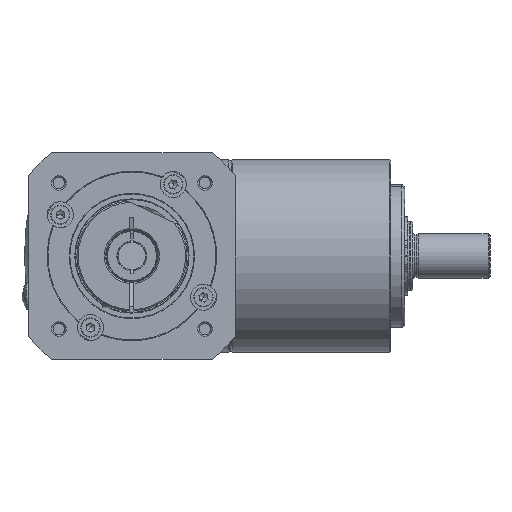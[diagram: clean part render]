
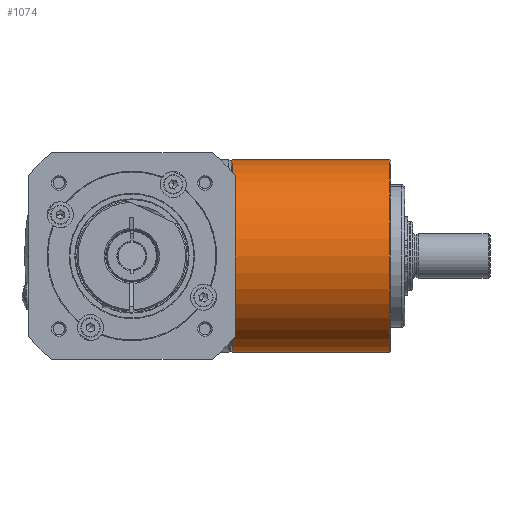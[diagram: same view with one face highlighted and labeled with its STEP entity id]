
A CAD part, front view. The second image highlights one B-rep face of the part: STEP entity #1074.
In plain terms, the highlighted cylindrical face has radius 35 mm (diameter 70 mm), a partial arc.
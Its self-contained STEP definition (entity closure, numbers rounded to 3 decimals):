
#1074 = ADVANCED_FACE ( 'NONE', ( #35308 ), #24565, .T. ) ;
#2248 = DIRECTION ( 'NONE',  ( 0., 0., -1. ) ) ;
#2878 = AXIS2_PLACEMENT_3D ( 'NONE', #20590, #27834, #2248 ) ;
#5453 = AXIS2_PLACEMENT_3D ( 'NONE', #33456, #11647, #9044 ) ;
#5550 = ORIENTED_EDGE ( 'NONE', *, *, #46148, .T. ) ;
#5832 = EDGE_CURVE ( 'NONE', #22723, #25010, #41309, .T. ) ;
#6868 = AXIS2_PLACEMENT_3D ( 'NONE', #35953, #17956, #24730 ) ;
#8540 = ORIENTED_EDGE ( 'NONE', *, *, #44140, .F. ) ;
#9044 = DIRECTION ( 'NONE',  ( 0., 0., -1. ) ) ;
#9501 = LINE ( 'NONE', #24526, #19341 ) ;
#10461 = LINE ( 'NONE', #24780, #14022 ) ;
#11647 = DIRECTION ( 'NONE',  ( 1., 0., 0. ) ) ;
#14022 = VECTOR ( 'NONE', #32276, 1000. ) ;
#16032 = ORIENTED_EDGE ( 'NONE', *, *, #5832, .T. ) ;
#17956 = DIRECTION ( 'NONE',  ( -1., 0., 0. ) ) ;
#19341 = VECTOR ( 'NONE', #42562, 1000. ) ;
#19544 = ORIENTED_EDGE ( 'NONE', *, *, #24662, .T. ) ;
#19560 = CARTESIAN_POINT ( 'NONE',  ( 36.5, 0., 35. ) ) ;
#20590 = CARTESIAN_POINT ( 'NONE',  ( 88.368, 0., 0. ) ) ;
#22723 = VERTEX_POINT ( 'NONE', #34141 ) ;
#24526 = CARTESIAN_POINT ( 'NONE',  ( 88.368, 0., -35. ) ) ;
#24565 = CYLINDRICAL_SURFACE ( 'NONE', #2878, 35. ) ;
#24662 = EDGE_CURVE ( 'NONE', #25912, #38442, #25713, .T. ) ;
#24730 = DIRECTION ( 'NONE',  ( 0., 0., 1. ) ) ;
#24780 = CARTESIAN_POINT ( 'NONE',  ( 88.368, 0., 35. ) ) ;
#25010 = VERTEX_POINT ( 'NONE', #28403 ) ;
#25713 = CIRCLE ( 'NONE', #5453, 35. ) ;
#25912 = VERTEX_POINT ( 'NONE', #19560 ) ;
#27834 = DIRECTION ( 'NONE',  ( 1., 0., 0. ) ) ;
#28403 = CARTESIAN_POINT ( 'NONE',  ( 93.5, 0., 35. ) ) ;
#32276 = DIRECTION ( 'NONE',  ( 1., 0., 0. ) ) ;
#33456 = CARTESIAN_POINT ( 'NONE',  ( 36.5, 0., 0. ) ) ;
#34141 = CARTESIAN_POINT ( 'NONE',  ( 93.5, 0., -35. ) ) ;
#35159 = EDGE_LOOP ( 'NONE', ( #8540, #19544, #5550, #16032 ) ) ;
#35308 = FACE_OUTER_BOUND ( 'NONE', #35159, .T. ) ;
#35953 = CARTESIAN_POINT ( 'NONE',  ( 93.5, 0., 0. ) ) ;
#38442 = VERTEX_POINT ( 'NONE', #40004 ) ;
#40004 = CARTESIAN_POINT ( 'NONE',  ( 36.5, 0., -35. ) ) ;
#41309 = CIRCLE ( 'NONE', #6868, 35. ) ;
#42562 = DIRECTION ( 'NONE',  ( 1., 0., 0. ) ) ;
#44140 = EDGE_CURVE ( 'NONE', #25912, #25010, #10461, .T. ) ;
#46148 = EDGE_CURVE ( 'NONE', #38442, #22723, #9501, .T. ) ;
